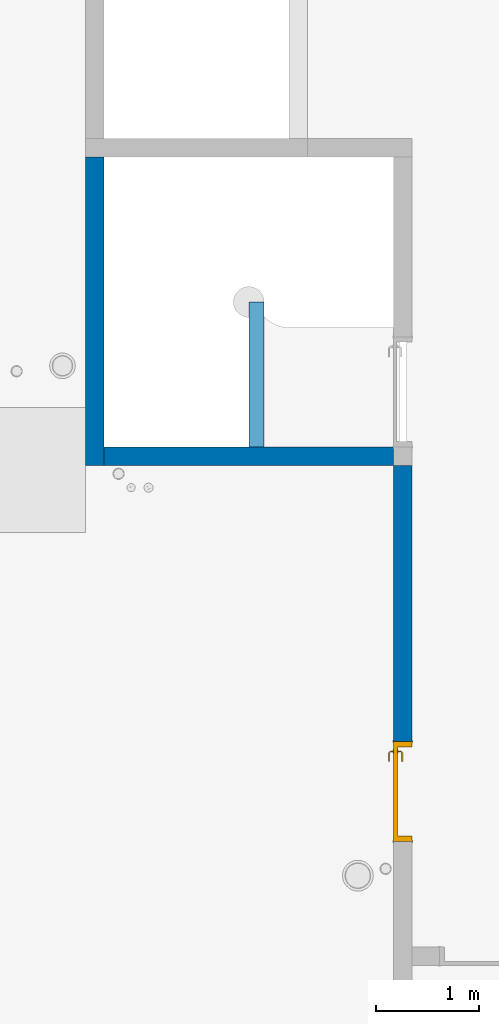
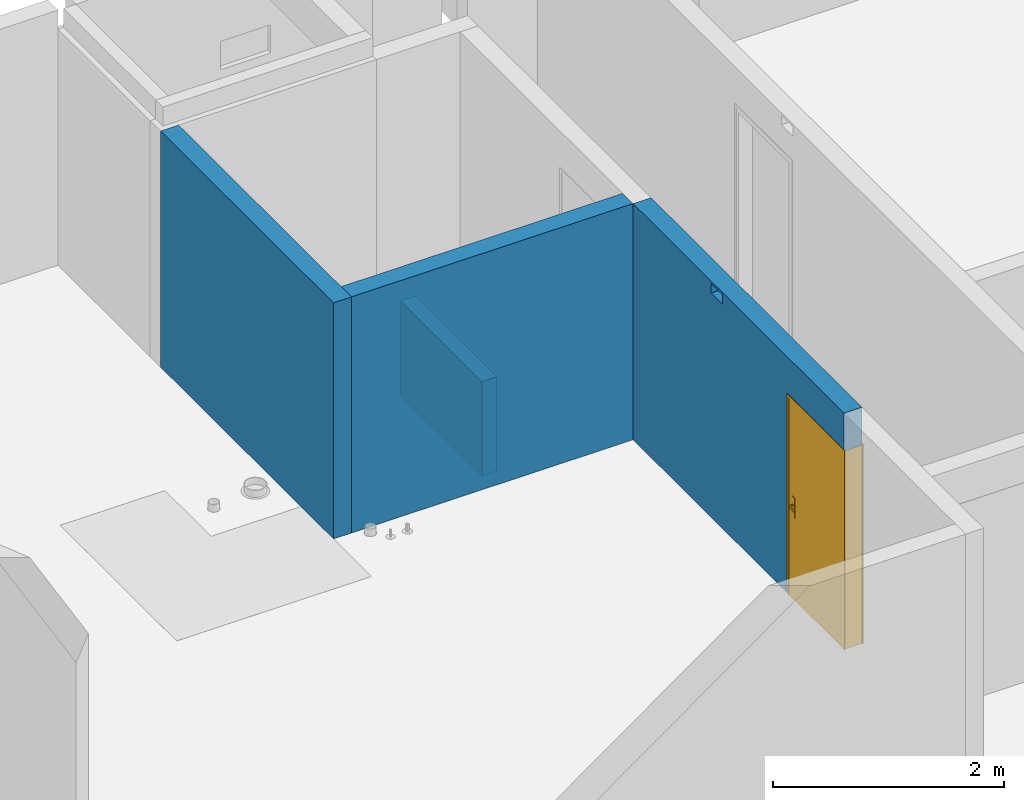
# One storey, part 4 of 28: 4 walls, 1 door, 2 openings.
"""IFC2X3 building model written with IfcOpenShell, lengths in centimetres."""

from ifc_helpers import new_model, entity, si_unit, converted_unit, derived_unit, direction, frame, frame_2d, origin, place, context, subcontext, project, spatial, rectangle, extrude, faceted_brep, source, transform, mapped, material, material_list, layer, layer_set, layer_usage, type_object, type_shapes, element, fill, save


model = new_model("IFC2X3")

# Units and contexts
model_context = context("Model", 3, precision=0.001, world=origin(), true_north=direction((6.12303176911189e-17, 1.0)))
body_context = subcontext(model_context, "Body", "Model", "MODEL_VIEW")
ifc_project = project(units=[si_unit("LENGTHUNIT", "METRE", prefix="CENTI"), si_unit("AREAUNIT", "SQUARE_METRE"), si_unit("VOLUMEUNIT", "CUBIC_METRE"), converted_unit("PLANEANGLEUNIT", "DEGREE", entity("IfcRatioMeasure", 0.0174532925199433), si_unit("PLANEANGLEUNIT", "RADIAN"), dimensions=[0, 0, 0, 0, 0, 0, 0]), si_unit("MASSUNIT", "GRAM", prefix="KILO"), derived_unit("MASSDENSITYUNIT", [(si_unit("MASSUNIT", "GRAM", prefix="KILO"), 1), (si_unit("LENGTHUNIT", "METRE"), -3)]), si_unit("TIMEUNIT", "SECOND"), si_unit("FREQUENCYUNIT", "HERTZ"), si_unit("THERMODYNAMICTEMPERATUREUNIT", "DEGREE_CELSIUS"), derived_unit("THERMALTRANSMITTANCEUNIT", [(si_unit("MASSUNIT", "GRAM", prefix="KILO"), 1), (si_unit("THERMODYNAMICTEMPERATUREUNIT", "KELVIN"), -1), (si_unit("TIMEUNIT", "SECOND"), -3)]), derived_unit("VOLUMETRICFLOWRATEUNIT", [(si_unit("LENGTHUNIT", "METRE"), 3), (si_unit("TIMEUNIT", "SECOND"), -1)]), si_unit("ELECTRICCURRENTUNIT", "AMPERE"), si_unit("ELECTRICVOLTAGEUNIT", "VOLT"), si_unit("POWERUNIT", "WATT"), si_unit("FORCEUNIT", "NEWTON"), si_unit("ILLUMINANCEUNIT", "LUX"), si_unit("LUMINOUSFLUXUNIT", "LUMEN"), si_unit("LUMINOUSINTENSITYUNIT", "CANDELA"), derived_unit("USERDEFINED", [(si_unit("MASSUNIT", "GRAM", prefix="KILO"), -1), (si_unit("LENGTHUNIT", "METRE"), -2), (si_unit("TIMEUNIT", "SECOND"), 3), (si_unit("LUMINOUSFLUXUNIT", "LUMEN"), 1)]), derived_unit("LINEARVELOCITYUNIT", [(si_unit("LENGTHUNIT", "METRE"), 1), (si_unit("TIMEUNIT", "SECOND"), -1)]), si_unit("PRESSUREUNIT", "PASCAL"), derived_unit("USERDEFINED", [(si_unit("LENGTHUNIT", "METRE"), -2), (si_unit("MASSUNIT", "GRAM", prefix="KILO"), 1), (si_unit("TIMEUNIT", "SECOND"), -2)])], contexts=[model_context])

# Site, building, storey
site_placement = place(None, origin())
site = spatial("IfcSite", under=ifc_project, at=site_placement, Name="Default", CompositionType="ELEMENT")
building_placement = place(site_placement, origin())
building = spatial("IfcBuilding", under=site, at=building_placement, Name="CAGE 03", CompositionType="ELEMENT")
storey_placement = place(building_placement, frame((0.0, 0.0, 1420.0)))
storey = spatial("IfcBuildingStorey", under=building, at=storey_placement, Name="R+5", CompositionType="ELEMENT", Elevation=1420.0)

# Wall, openings, door
ifc_material_1 = material(Name="Béton, C25/30")
ifc_layer_1 = layer(ifc_material_1, 18.0)
ifc_layer_set_1 = layer_set([ifc_layer_1], Name="Mur de base:Voile BA 18")
ifc_layer_usage_1 = layer_usage(ifc_layer_set_1, "AXIS2", "NEGATIVE", 9.0)
wall_type_1 = type_object("IfcWallType", Name="Mur de base:Voile BA 18", PredefinedType="STANDARD", material=ifc_layer_set_1)
wall_1_placement = place(storey_placement, frame((3963.36582014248, 4632.66066607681, 0.0), z_axis=(0.0, 0.0, 1.0), x_axis=(0.0, -1.0, 0.0)))
wall_1 = element("IfcWallStandardCase", 1, at=wall_1_placement, inside=storey, type_object=wall_type_1, material=ifc_layer_usage_1, Name="Mur de base:Voile BA 18", ObjectType="Mur de base:Voile BA 18", context=body_context, shape_type="SweptSolid", body=[
    extrude(rectangle(XDim=365.999999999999, YDim=17.9999999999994, at=frame_2d((183.0, 2.90434343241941e-13), x_axis=(-1.0, 0.0))), origin(), (0.0, 0.0, 1.0), 250.0),
])
opening_1_placement = place(wall_1_placement, origin())
element("IfcOpeningElement", 2, at=opening_1_placement, cuts=wall_1, Name="Mur de base:Voile BA 18", ObjectType="Opening", context=body_context, shape_type="SweptSolid", body=[
    extrude(rectangle(XDim=10.0000000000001, YDim=19.9999999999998, at=frame_2d((1.08357767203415e-13, 4.33431068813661e-13), x_axis=(1.0, 0.0))), frame((145.5, -9.0, 242.500000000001), z_axis=(0.0, 1.0, 0.0), x_axis=(0.0, 0.0, -1.0)), (0.0, 0.0, 1.0), 17.9999999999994),
])
opening_2_placement = place(wall_1_placement, frame((366.0, 9.0, 0.0)))
opening_2 = element("IfcOpeningElement", 3, at=opening_2_placement, cuts=wall_1, Name="Int. Simple:HB93:1", ObjectType="Opening", context=body_context, shape_type="SweptSolid", body=[
    extrude(rectangle(XDim=210.000000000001, YDim=96.9999999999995, at=frame_2d((105.000000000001, 48.4999999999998), x_axis=(1.0, 0.0))), frame((0.0, 0.0, 0.0), z_axis=(0.0, -1.0, 0.0), x_axis=(0.0, 0.0, 1.0)), (0.0, 0.0, 1.0), 18.0),
])
ifc_material_2 = material(Name="Finition Peinture - Blanc satiné")
ifc_material_3 = material(Name="Bois - Panneau de porte")
ifc_material_4 = material(Name="Bois - Cadre de porte")
ifc_material_list_1 = material_list([ifc_material_2, ifc_material_3, ifc_material_4])
ifc_material_list_2 = material_list([ifc_material_2, ifc_material_3, ifc_material_4])
door_style = type_object("IfcDoorStyle", Name="HB93", ConstructionType="NOTDEFINED", OperationType="SINGLE_SWING_LEFT", ParameterTakesPrecedence=False, Sizeable=False, material=ifc_material_list_2)
shared_shape = source(origin(), body_context, "Body", "Brep", [
    faceted_brep([(10.5352761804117, -0.500000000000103, 86.6003983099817), (11.5000000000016, -0.500000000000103, 87.0), (11.5000000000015, -0.500000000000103, 108.0), (10.5352761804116, -0.500000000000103, 108.399601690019), (9.50000000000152, -0.500000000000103, 108.535898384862), (8.46472381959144, -0.500000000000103, 108.399601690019), (7.50000000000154, -0.500000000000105, 108.0), (7.50000000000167, -0.500000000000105, 87.0), (8.46472381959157, -0.500000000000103, 86.6003983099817), (9.50000000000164, -0.500000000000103, 86.464101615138), (10.5352761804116, 0.0, 108.399601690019), (11.5000000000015, 0.0, 108.0), (11.5000000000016, 0.0, 87.0), (10.5352761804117, 0.0, 86.6003983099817), (9.50000000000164, 0.0, 86.464101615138), (8.46472381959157, 0.0, 86.6003983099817), (7.50000000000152, 0.0, 87.0), (7.50000000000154, 0.0, 108.0), (8.46472381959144, 0.0, 108.399601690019), (9.50000000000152, 0.0, 108.535898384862)], [[[0, 1, 2, 3, 4, 5, 6, 7, 8, 9]], [[10, 11, 12, 13, 14, 15, 16, 17, 18, 19]], [[16, 15, 8, 7]], [[8, 15, 14, 9]], [[14, 13, 0, 9]], [[13, 12, 1, 0]], [[2, 1, 12, 11]], [[11, 10, 3, 2]], [[3, 10, 19, 4]], [[19, 18, 5, 4]], [[18, 17, 6, 5]], [[7, 6, 17, 16]]]),
    faceted_brep([(10.5352761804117, 4.0, 86.6003983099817), (11.5000000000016, 4.0, 87.0), (11.5000000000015, 4.0, 108.0), (10.5352761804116, 4.0, 108.399601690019), (9.50000000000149, 4.0, 108.535898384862), (8.46472381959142, 4.0, 108.399601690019), (7.50000000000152, 4.0, 108.0), (7.50000000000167, 4.0, 87.0), (8.46472381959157, 4.0, 86.6003983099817), (9.50000000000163, 4.0, 86.464101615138), (10.5352761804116, 4.49999999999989, 108.399601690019), (11.5000000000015, 4.4999999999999, 108.0), (11.5000000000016, 4.4999999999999, 87.0), (10.5352761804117, 4.49999999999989, 86.6003983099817), (9.50000000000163, 4.49999999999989, 86.464101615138), (8.46472381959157, 4.49999999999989, 86.6003983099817), (7.50000000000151, 4.49999999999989, 87.0), (7.50000000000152, 4.49999999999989, 108.0), (8.46472381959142, 4.49999999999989, 108.399601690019), (9.50000000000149, 4.49999999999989, 108.535898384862)], [[[0, 1, 2, 3, 4, 5, 6, 7, 8, 9]], [[10, 11, 12, 13, 14, 15, 16, 17, 18, 19]], [[11, 10, 3, 2]], [[3, 10, 19, 4]], [[19, 18, 5, 4]], [[18, 17, 6, 5]], [[7, 6, 17, 16]], [[16, 15, 8, 7]], [[8, 15, 14, 9]], [[14, 13, 0, 9]], [[13, 12, 1, 0]], [[2, 1, 12, 11]]]),
    faceted_brep([(9.29747013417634, -0.500000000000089, 100.778044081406), (9.70252986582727, -0.500000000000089, 100.778044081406), (10.1000000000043, -0.500000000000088, 100.699999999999), (10.1000000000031, -0.500000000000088, 99.3000000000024), (9.70252986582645, -0.500000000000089, 99.2219559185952), (9.29747013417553, -0.500000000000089, 99.221955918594), (8.89999999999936, -0.500000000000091, 99.2999999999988), (8.89999999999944, -0.500000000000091, 100.7), (8.89999999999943, -3.26509507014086, 100.7), (9.29747013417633, -3.10045754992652, 100.778044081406), (10.9023585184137, -4.70534593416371, 100.778044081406), (11.0701397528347, -4.30028620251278, 100.778044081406), (9.70252986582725, -2.93267631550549, 100.778044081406), (10.1000000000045, -2.76803879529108, 100.7), (10.1000000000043, -2.76803879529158, 99.3000000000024), (9.70252986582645, -2.93267631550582, 99.2219559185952), (11.0701397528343, -4.30028620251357, 99.2219559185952), (10.9023585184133, -4.70534593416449, 99.221955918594), (9.29747013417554, -3.10045754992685, 99.221955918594), (8.89999999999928, -3.26509507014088, 99.2999999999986), (10.7377209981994, -5.1028160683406, 100.7), (11.2347772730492, -3.90281606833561, 100.7), (11.2347772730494, -3.90281606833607, 99.3000000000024), (10.7377209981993, -5.10281606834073, 99.2999999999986), (19.5018640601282, -5.1028160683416, 99.2999999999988), (19.5018640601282, -4.70534593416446, 99.221955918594), (19.5018640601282, -4.30028620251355, 99.2219559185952), (19.5018640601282, -3.90281606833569, 99.3000000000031), (19.5018640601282, -3.90281606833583, 100.7), (19.5018640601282, -4.30028620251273, 100.778044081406), (19.5018640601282, -4.70534593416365, 100.778044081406), (19.5018640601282, -5.10281606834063, 100.699999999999), (14.7307697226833, -5.10281606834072, 100.7), (15.28600190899, -4.5028160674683, 100.78786867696), (15.3683206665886, -3.9028160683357, 100.7), (15.3683206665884, -3.90281606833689, 99.3000000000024), (15.2860018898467, -4.50281607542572, 99.2121313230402), (14.7307700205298, -5.10281606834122, 99.2999999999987)], [[[0, 1, 2, 3, 4, 5, 6, 7]], [[8, 9, 0, 7]], [[9, 10, 11, 12, 1, 0]], [[12, 13, 2, 1]], [[3, 2, 13, 14]], [[14, 15, 4, 3]], [[15, 16, 17, 18, 5, 4]], [[18, 19, 6, 5]], [[7, 6, 19, 8]], [[20, 10, 9, 8]], [[11, 21, 13, 12]], [[14, 13, 21, 22]], [[22, 16, 15, 14]], [[17, 23, 19, 18]], [[8, 19, 23, 20]], [[24, 25, 26, 27, 28, 29, 30, 31]], [[32, 30, 33]], [[31, 30, 32]], [[10, 20, 32]], [[33, 34, 11]], [[21, 11, 34]], [[34, 29, 28]], [[30, 29, 33]], [[29, 34, 33]], [[10, 32, 33]], [[10, 33, 11]], [[22, 21, 34, 28, 27, 35]], [[35, 26, 36]], [[37, 36, 25]], [[22, 35, 16]], [[35, 27, 26]], [[24, 37, 25]], [[23, 17, 37]], [[37, 17, 36]], [[17, 16, 36]], [[16, 35, 36]], [[25, 36, 26]], [[20, 23, 37, 24, 31, 32]]]),
    faceted_brep([(9.29747013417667, 4.49999999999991, 100.778044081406), (8.89999999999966, 4.49999999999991, 100.7), (8.89999999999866, 4.49999999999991, 99.2999999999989), (9.2974701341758, 4.49999999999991, 99.221955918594), (9.70252986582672, 4.49999999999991, 99.2219559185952), (10.1000000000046, 4.49999999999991, 99.3000000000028), (10.1000000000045, 4.49999999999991, 100.7), (9.70252986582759, 4.49999999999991, 100.778044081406), (10.1000000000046, 6.7485204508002, 99.3000000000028), (10.1000000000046, 6.74852045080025, 100.7), (9.70252986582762, 6.91315797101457, 100.778044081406), (11.0838906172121, 8.29451872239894, 100.778044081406), (10.9161093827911, 8.69957845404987, 100.778044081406), (9.29747013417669, 7.0809392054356, 100.778044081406), (8.89999999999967, 7.24557672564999, 100.7), (8.89999999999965, 7.24557672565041, 99.2999999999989), (9.29747013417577, 7.08093920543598, 99.221955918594), (10.9161093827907, 8.69957845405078, 99.221955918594), (11.0838906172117, 8.29451872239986, 99.2219559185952), (9.7025298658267, 6.91315797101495, 99.2219559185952), (11.2485281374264, 7.89704858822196, 99.3000000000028), (11.2485281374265, 7.89704858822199, 100.7), (10.7514718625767, 9.0970485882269, 100.7), (10.751471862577, 9.0970485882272, 99.2999999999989), (19.504578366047, 7.89704858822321, 99.3000000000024), (19.504578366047, 8.29451872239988, 99.2219559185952), (19.504578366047, 8.6995784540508, 99.221955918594), (19.504578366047, 9.09704858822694, 99.2999999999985), (19.504578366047, 9.09704858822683, 100.7), (19.504578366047, 8.69957845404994, 100.778044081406), (19.504578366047, 8.29451872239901, 100.778044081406), (19.504578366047, 7.89704858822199, 100.7), (15.3765520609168, 7.89704858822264, 99.3000000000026), (15.3765532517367, 7.89704858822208, 100.7), (15.294234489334, 8.49704858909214, 100.78786867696), (14.7445205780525, 9.09704858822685, 100.7), (14.7445204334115, 9.09704858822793, 99.2999999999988), (15.2942345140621, 8.49704858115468, 99.2121313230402)], [[[0, 1, 2, 3, 4, 5, 6, 7]], [[6, 5, 8, 9]], [[9, 10, 7, 6]], [[10, 11, 12, 13, 0, 7]], [[13, 14, 1, 0]], [[2, 1, 14, 15]], [[15, 16, 3, 2]], [[16, 17, 18, 19, 4, 3]], [[19, 8, 5, 4]], [[9, 8, 20, 21]], [[21, 11, 10, 9]], [[12, 22, 14, 13]], [[15, 14, 22, 23]], [[23, 17, 16, 15]], [[18, 20, 8, 19]], [[24, 25, 26, 27, 28, 29, 30, 31]], [[21, 20, 32, 24, 31, 33]], [[33, 30, 34]], [[35, 34, 29]], [[21, 33, 11]], [[33, 31, 30]], [[28, 35, 29]], [[22, 12, 35]], [[35, 12, 34]], [[12, 11, 34]], [[11, 33, 34]], [[29, 34, 30]], [[22, 35, 28, 27, 36, 23]], [[36, 26, 37]], [[27, 26, 36]], [[17, 23, 36]], [[37, 32, 18]], [[20, 18, 32]], [[32, 25, 24]], [[26, 25, 37]], [[25, 32, 37]], [[17, 36, 37]], [[17, 37, 18]]]),
    faceted_brep([(3.50000000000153, 4.0, 206.5), (93.5000000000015, 4.0, 206.5), (93.5000000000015, 4.0, 0.0), (3.50000000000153, 4.0, 0.0), (3.50000000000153, 0.0, 206.5), (3.50000000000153, 0.0, 0.0), (93.5000000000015, 0.0, 0.0), (93.5000000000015, 0.0, 206.5)], [[[0, 1, 2, 3]], [[4, 5, 6, 7]], [[1, 0, 4, 7]], [[2, 1, 7, 6]], [[3, 2, 6, 5]], [[0, 3, 5, 4]]]),
    faceted_brep([(0.0, 0.0, 0.0), (0.0, 18.0, 0.0), (5.0, 18.0, 0.0), (5.0, 4.0, 0.0), (3.50000000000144, 4.0, 0.0), (3.50000000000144, 0.0, 0.0), (0.0, 0.0, 210.0), (0.0, 18.0, 210.0), (97.0, 18.0, 210.0), (97.0, 18.0, 0.0), (92.0, 18.0, 0.0), (92.0, 18.0, 205.0), (5.0, 18.0, 205.0), (5.0, 4.0, 205.0), (92.0, 4.0, 205.0), (92.0, 4.0, 0.0), (93.4999999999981, 4.0, 0.0), (93.4999999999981, 4.0, 206.5), (3.50000000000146, 4.0, 206.5), (3.50000000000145, 0.0, 206.5), (93.4999999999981, 0.0, 206.5), (93.4999999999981, 0.0, 0.0), (97.0, 0.0, 0.0), (97.0, 0.0, 210.0)], [[[0, 1, 2, 3, 4, 5]], [[1, 0, 6, 7]], [[2, 1, 7, 8, 9, 10, 11, 12]], [[3, 2, 12, 13]], [[4, 3, 13, 14, 15, 16, 17, 18]], [[5, 4, 18, 19]], [[0, 5, 19, 20, 21, 22, 23, 6]], [[8, 23, 22, 9]], [[22, 21, 16, 15, 10, 9]], [[14, 11, 10, 15]], [[20, 17, 16, 21]], [[7, 6, 23, 8]], [[13, 12, 11, 14]], [[19, 18, 17, 20]]]),
    faceted_brep([(1.5, 18.0, 0.0), (-1.49999999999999, 18.0, 0.0), (-1.49999999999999, 18.5000000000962, 0.0), (1.5, 18.5000000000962, 0.0), (1.5, 18.0, 208.500000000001), (95.4999999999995, 18.0, 208.500000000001), (95.4999999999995, 18.0, 0.0), (98.4999999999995, 18.0, 0.0), (98.4999999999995, 18.0, 211.500000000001), (-1.49999999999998, 18.0, 211.500000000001), (-1.49999999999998, 18.5000000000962, 211.500000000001), (98.4999999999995, 18.5000000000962, 211.500000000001), (98.4999999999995, 18.5000000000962, 0.0), (95.4999999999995, 18.5000000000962, 0.0), (95.4999999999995, 18.5000000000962, 208.500000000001), (1.50000000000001, 18.5000000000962, 208.500000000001)], [[[0, 1, 2, 3]], [[1, 0, 4, 5, 6, 7, 8, 9]], [[2, 1, 9, 10]], [[3, 2, 10, 11, 12, 13, 14, 15]], [[0, 3, 15, 4]], [[6, 13, 12, 7]], [[5, 14, 13, 6]], [[11, 8, 7, 12]], [[10, 9, 8, 11]], [[4, 15, 14, 5]]]),
    faceted_brep([(-1.49999999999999, -0.5, 0.0), (1.5, -0.5, 0.0), (1.5, -0.5, 208.500000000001), (95.4999999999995, -0.5, 208.500000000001), (95.4999999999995, -0.5, 0.0), (98.4999999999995, -0.5, 0.0), (98.4999999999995, -0.5, 211.500000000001), (-1.49999999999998, -0.5, 211.500000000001), (-1.49999999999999, 0.0, 0.0), (-1.49999999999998, 0.0, 211.500000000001), (1.5, 0.0, 0.0), (98.4999999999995, 0.0, 211.500000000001), (98.4999999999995, 0.0, 0.0), (95.4999999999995, 0.0, 0.0), (95.4999999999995, 0.0, 208.500000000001), (1.50000000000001, 0.0, 208.500000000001)], [[[0, 1, 2, 3, 4, 5, 6, 7]], [[8, 0, 7, 9]], [[10, 8, 9, 11, 12, 13, 14, 15]], [[1, 10, 15, 2]], [[3, 14, 13, 4]], [[11, 6, 5, 12]], [[9, 7, 6, 11]], [[2, 15, 14, 3]], [[4, 13, 12, 5]], [[1, 0, 8, 10]]]),
])
type_shapes(door_style, [shared_shape])
door_placement = place(opening_2_placement, frame((-97.0, -18.0, 0.0)))
door = element("IfcDoor", 4, at=door_placement, inside=storey, type_object=door_style, material=ifc_material_list_1, Name="Int. Simple:HB93", ObjectType="HB93", OverallHeight=210.000000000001, OverallWidth=96.9999999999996, context=body_context, shape_type="MappedRepresentation", body=[
    mapped(shared_shape, transform((0.0, 0.0, 0.0), scale=1.0)),
])
fill(opening_2, door)

# Walls
ifc_material_5 = material(Name="Béton, panneaux préfa 30/37")
ifc_layer_2 = layer(ifc_material_5, 5.5)
ifc_layer_3 = layer(ifc_material_1, 7.0)
ifc_layer_4 = layer(ifc_material_5, 5.5)
ifc_layer_set_2 = layer_set([ifc_layer_2, ifc_layer_3, ifc_layer_4], Name="Mur de base:premur 18")
ifc_layer_usage_2 = layer_usage(ifc_layer_set_2, "AXIS2", "POSITIVE", -9.0)
wall_type_2 = type_object("IfcWallType", Name="Mur de base:premur 18", PredefinedType="NOTDEFINED")
wall_2_placement = place(storey_placement, frame((3672.36582014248, 4641.66066607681, 0.0)))
element("IfcWallStandardCase", 5, at=wall_2_placement, inside=storey, type_object=wall_type_2, material=ifc_layer_usage_2, Name="Mur de base:premur 18", ObjectType="Mur de base:premur 18", context=body_context, shape_type="SweptSolid", body=[
    extrude(rectangle(XDim=282.0, YDim=17.9999999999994, at=frame_2d((141.0, -2.57571741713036e-14), x_axis=(-1.0, 0.0))), origin(), (0.0, 0.0, 1.0), 250.0),
])
ifc_layer_usage_3 = layer_usage(ifc_layer_set_2, "AXIS2", "POSITIVE", -9.0)
wall_3_placement = place(storey_placement, frame((3663.36582014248, 4932.66066607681, 0.0), z_axis=(0.0, 0.0, 1.0), x_axis=(0.0, -1.0, 0.0)))
element("IfcWallStandardCase", 6, at=wall_3_placement, inside=storey, type_object=wall_type_2, material=ifc_layer_usage_3, Name="Mur de base:premur 18", ObjectType="Mur de base:premur 18", context=body_context, shape_type="SweptSolid", body=[
    extrude(rectangle(XDim=299.999999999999, YDim=18.0000000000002, at=frame_2d((150.0, 3.01980662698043e-14), x_axis=(-1.0, 0.0))), origin(), (0.0, 0.0, 1.0), 250.0),
])
ifc_layer_5 = layer(ifc_material_1, 15.0)
ifc_layer_set_3 = layer_set([ifc_layer_5], Name="Mur de base:Voile BA 15")
ifc_layer_usage_4 = layer_usage(ifc_layer_set_3, "AXIS2", "POSITIVE", -7.5)
wall_type_3 = type_object("IfcWallType", Name="Mur de base:Voile BA 15", PredefinedType="STANDARD", material=ifc_layer_set_3)
wall_4_placement = place(storey_placement, frame((3820.86582014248, 4791.66066607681, 0.0), z_axis=(0.0, 0.0, 1.0), x_axis=(0.0, -1.0, 0.0)))
element("IfcWallStandardCase", 7, at=wall_4_placement, inside=storey, type_object=wall_type_3, material=ifc_layer_usage_4, Name="Mur de base:Voile BA 15", ObjectType="Mur de base:Voile BA 15", context=body_context, shape_type="SweptSolid", body=[
    extrude(rectangle(XDim=141.000000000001, YDim=15.0000000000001, at=frame_2d((70.5000000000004, 9.45910016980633e-14), x_axis=(-1.0, 0.0))), origin(), (0.0, 0.0, 1.0), 99.9999999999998),
])

save(model, "model.ifc")
